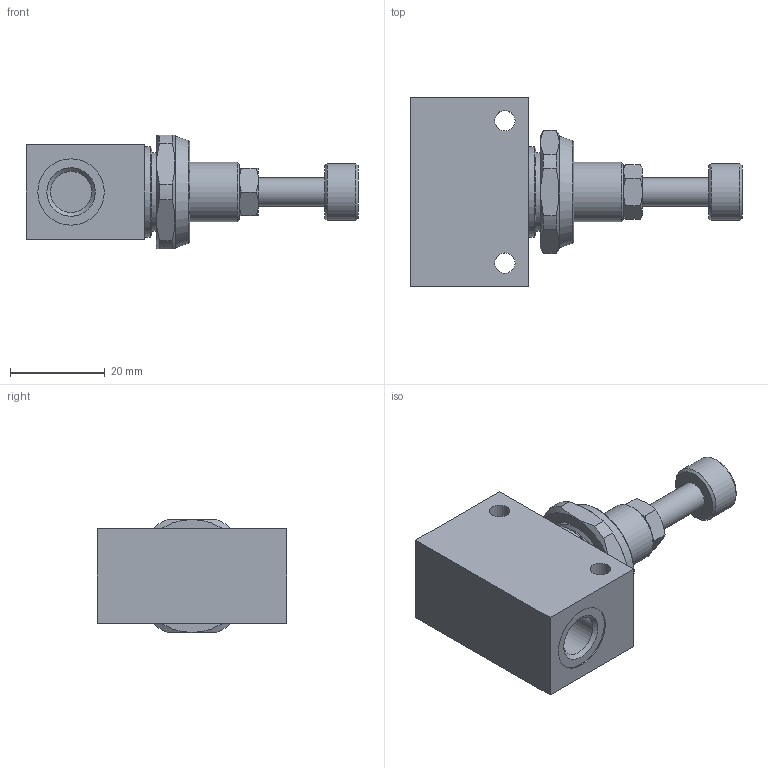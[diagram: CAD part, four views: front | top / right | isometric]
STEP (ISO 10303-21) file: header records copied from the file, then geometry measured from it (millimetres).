
FILE_DESCRIPTION(/* description */ (''),/* implementation_level */ '2;1');
FILE_NAME(/* name */ 'I:\Area Tecnica\Disegni\VARIE-3D\Componenti\600\6_01_18-###\6_01_18-6.stp',/* time_stamp */ '2017-01-04T08:26:26+01:00',/* author */ ('maniean1'),/* organization */ (''),/* preprocessor_version */ 'ST-DEVELOPER v15.2',/* originating_system */ 'Autodesk Inventor 2014',/* authorisation */ '');
FILE_SCHEMA (('AUTOMOTIVE_DESIGN { 1 0 10303 214 3 1 1 }'));
Length unit declared in the file: millimetre
Products named in the file (4): 6_01_18-6-7(A); 6_01_18#_(B); 6_01_18#_(C); 6_01_18-6
Bounding box: 70 x 40 x 24 mm (x, y, z)
Volume: 24950.6 mm3; surface area: 8867.3 mm2
Topology: 3 solids, 3 shells, 81 faces, 171 edges, 106 vertices
Faces by surface type: plane 32, cone 27, cylinder 21, torus 1
Full cylindrical faces by diameter (mm): 4.3 x2, 5.459 x1, 6 x1, 8.68 x2, 12 x1, 12.5 x1, 14 x2, 16.5 x1, 17 x1, 18 x1, 19 x1, 19.5 x1
Entity records: 2077 total; most frequent: CARTESIAN_POINT 396, DIRECTION 344, ORIENTED_EDGE 270, AXIS2_PLACEMENT_3D 157, EDGE_CURVE 135, EDGE_LOOP 130, VERTEX_POINT 101, ADVANCED_FACE 81
